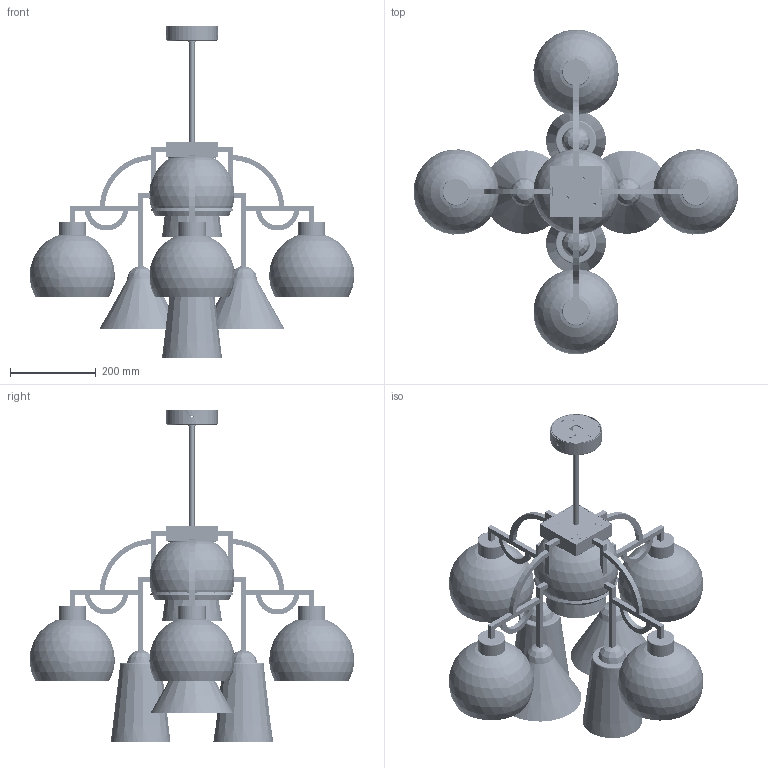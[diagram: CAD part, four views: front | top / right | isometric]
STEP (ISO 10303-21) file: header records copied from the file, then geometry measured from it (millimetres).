
FILE_DESCRIPTION( ( 'Unknown' ), '1' );
FILE_NAME( '//MMS001/Pubblica/PROGETTI MM LAMPADARI/7415 MYA/3D/7415LAMPADARIOMISTOTUTTOVETRO.stp', 'Unknown', ( 'Unknown' ), ( 'Unknown' ), 'XStep 1.0', 'Unknown', ' ' );
FILE_SCHEMA( ( 'automotive_design' ) );
Length unit declared in the file: millimetre
Products named in the file (24): Assem1; Assem2; 400231108 CAPPELLOTTO E14 BIANCO; 400233113 CAMICIA E14 BIANCA FILETTATA; 7415C002 SCATOLA RACCORDO BRACCI; 7415C001 BRACCIO; 400103564 SCATOLA FE D 64x33 15-10; 400115570 12 SFERA FE D 65 1510 F.10,5 SSC; 400104025 TUBETTO FILETTATO D9,5 L=25; 400109001 RONDELLA DENTATA M10; 400108502 DADO M10x1; 7415C008 TAPPO CHIUSURA SCATOLA; 7415C009 ALLUNGA 250MM; 400125059 STAFFA A SOFFITTO; 7415C027 CONO VETRO VETRARTI; 7415C015 CUPOLA; 7415C028 CONO VETRO VETRARTI V627-B; 400125058 ROSONE CIRCOLARE; 7415C034 STAFFA APPENDIMENTO; 400104015 TUBETTO FILETTATO D9,5 L=15; 400125061 OMEGA SU STAFFA; 400105437 RAC.FE ES.17X21 M10X1 FTR.10,2 ZIN; 7415C070 GHIERA; 400110547 PASSACAVO PVC NERO D.18,5X8 MM
Bounding box: 759.74 x 759.72 x 776.25 mm (x, y, z)
Volume: 3424034.9 mm3; surface area: 2852133 mm2
Topology: 115 solids, 115 shells, 4704 faces, 12535 edges, 8158 vertices
Faces by surface type: plane 3044, cylinder 922, cone 368, torus 186, bspline 174, sphere 10
Full cylindrical faces by diameter (mm): 1.567 x10, 2 x10, 3 x12, 3.242 x12, 4 x10, 4.5 x4, 5 x8, 5.5 x4, 6 x4, 8 x17, 8.917 x49, 10 x15, 10.25 x41, 10.5 x10, 11 x8, 12 x4, 14 x14, 15 x2, 16 x10, 18 x4, 20 x10, 22.5 x50, 25 x2, 28 x19, 31 x5, 44 x3, 46 x3, 50 x3, 52 x3, 61 x5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
Entity records: 26220 total; most frequent: CARTESIAN_POINT 8047, DIRECTION 3611, ORIENTED_EDGE 3260, EDGE_CURVE 1630, AXIS2_PLACEMENT_3D 1358, VERTEX_POINT 1128, EDGE_LOOP 978, LINE 895
